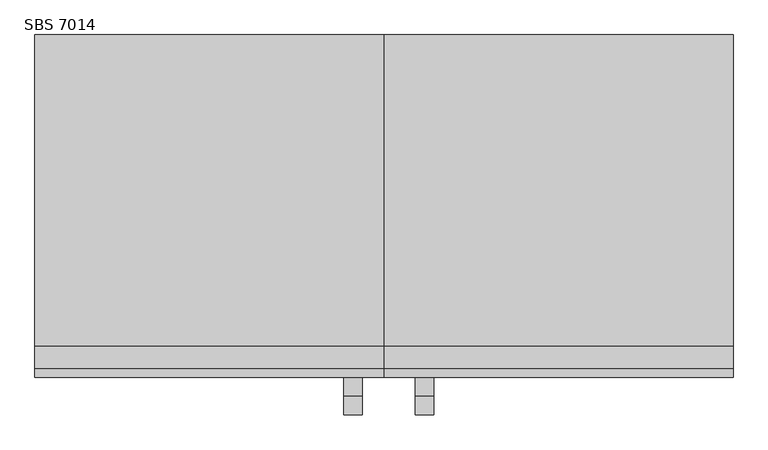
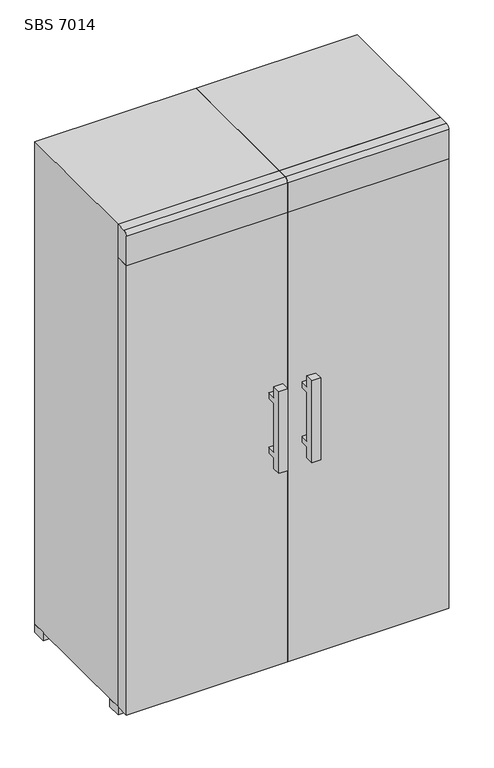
"""IFC4 building model written with IfcOpenShell, lengths in millimetres: proxy geometry, SBS 7014 : SICN 3314."""

from ifc_helpers import new_model, si_unit, point, frame, frame_2d, origin, place, context, project, spatial, polyline, circle_curve, trimmed, segment, composite_curve, outline, extrude, source, transform, mapped, element, save


def sbs_7014_2ff5a770(model_context):
    return source(origin(), model_context, "Body", "SweptSolid", [
        extrude(outline(composite_curve([segment(polyline([(2373.3651835, 1104.8132517), (2323.3651835, 1104.8132517), (2323.3651835, 1213.26203)]), True, "CONTINUOUS"), segment(trimmed(circle_curve(frame_2d((2337.6647672, 1212.4930039)), 14.3202478), [point((2323.3651835, 1213.26203))], [point((2337.6647672, 1226.8132517))], False, "CARTESIAN"), True, "CONTINUOUS"), segment(polyline([(2337.6647672, 1226.8132517), (2373.3651835, 1226.8132517), (2373.3651835, 1104.8132517)]), True, "CONTINUOUS")], self_intersect=False)), frame((2866.6618384, 0.0, 0.0), z_axis=(1.0, 0.0, 0.0), x_axis=(0.0, 1.0, 0.0)), (0.0, 0.0, 1.0), 560.0),
        extrude(outline(polyline([(3426.6618384, 2423.3651835), (3426.6618384, 2373.3651835), (3376.6618384, 2373.3651835), (3376.6618384, 2423.3651835), (3426.6618384, 2423.3651835)])), frame((0.0, 0.0, -575.1867483), z_axis=(0.0, 0.0, 1.0), x_axis=(1.0, 0.0, 0.0)), (0.0, 0.0, 1.0), 30.0),
        extrude(outline(polyline([(3426.6618384, 2873.3651835), (3426.6618384, 2823.3651835), (3376.6618384, 2823.3651835), (3376.6618384, 2873.3651835), (3426.6618384, 2873.3651835)])), frame((0.0, 0.0, -575.1867483), z_axis=(0.0, 0.0, 1.0), x_axis=(1.0, 0.0, 0.0)), (0.0, 0.0, 1.0), 30.0),
        extrude(outline(polyline([(2916.6618384, 2873.3651835), (2916.6618384, 2823.3651835), (2866.6618384, 2823.3651835), (2866.6618384, 2873.3651835), (2916.6618384, 2873.3651835)])), frame((0.0, 0.0, -575.1867483), z_axis=(0.0, 0.0, 1.0), x_axis=(1.0, 0.0, 0.0)), (0.0, 0.0, 1.0), 30.0),
        extrude(outline(polyline([(2916.6618384, 2423.3651835), (2916.6618384, 2373.3651835), (2866.6618384, 2373.3651835), (2866.6618384, 2423.3651835), (2916.6618384, 2423.3651835)])), frame((0.0, 0.0, -575.1867483), z_axis=(0.0, 0.0, 1.0), x_axis=(1.0, 0.0, 0.0)), (0.0, 0.0, 1.0), 30.0),
        extrude(outline(polyline([(2293.3651835, 464.8132517), (2323.3651835, 464.8132517), (2323.3651835, 444.8132517), (2293.3651835, 444.8132517), (2293.3651835, 264.8132517), (2323.3651835, 264.8132517), (2323.3651835, 244.8132517), (2293.3651835, 244.8132517), (2293.3651835, 204.8132517), (2263.3651835, 204.8132517), (2263.3651835, 504.8132517), (2293.3651835, 504.8132517), (2293.3651835, 464.8132517)])), frame((2916.6618384, 0.0, 0.0), z_axis=(1.0, 0.0, 0.0), x_axis=(0.0, 1.0, 0.0)), (0.0, 0.0, 1.0), 30.0),
        extrude(outline(polyline([(3426.6618384, 2323.3651835), (2866.6618384, 2323.3651835), (2866.6618384, 2373.3651835), (3426.6618384, 2373.3651835), (3426.6618384, 2323.3651835)])), frame((0.0, 0.0, -545.1867483), z_axis=(0.0, 0.0, 1.0), x_axis=(1.0, 0.0, 0.0)), (0.0, 0.0, 1.0), 1650.0),
        extrude(outline(polyline([(3426.6618384, 2373.3651835), (2866.6618384, 2373.3651835), (2866.6618384, 2873.3651835), (3426.6618384, 2873.3651835), (3426.6618384, 2373.3651835)])), frame((0.0, 0.0, -545.1867483), z_axis=(0.0, 0.0, 1.0), x_axis=(1.0, 0.0, 0.0)), (0.0, 0.0, 1.0), 1772.0),
        extrude(outline(composite_curve([segment(polyline([(2373.3651835, 1104.8132517), (2323.3651835, 1104.8132517), (2323.3651835, 1213.26203)]), True, "CONTINUOUS"), segment(trimmed(circle_curve(frame_2d((2337.6647672, 1212.4930039)), 14.3202478), [point((2323.3651835, 1213.26203))], [point((2337.6647672, 1226.8132517))], False, "CARTESIAN"), True, "CONTINUOUS"), segment(polyline([(2337.6647672, 1226.8132517), (2373.3651835, 1226.8132517), (2373.3651835, 1104.8132517)]), True, "CONTINUOUS")], self_intersect=False)), frame((2306.6618384, 0.0, 0.0), z_axis=(1.0, 0.0, 0.0), x_axis=(0.0, 1.0, 0.0)), (0.0, 0.0, 1.0), 560.0),
        extrude(outline(polyline([(2866.6618384, 2423.3651835), (2866.6618384, 2373.3651835), (2816.6618384, 2373.3651835), (2816.6618384, 2423.3651835), (2866.6618384, 2423.3651835)])), frame((0.0, 0.0, -575.1867483), z_axis=(0.0, 0.0, 1.0), x_axis=(1.0, 0.0, 0.0)), (0.0, 0.0, 1.0), 30.0),
        extrude(outline(polyline([(2866.6618384, 2873.3651835), (2866.6618384, 2823.3651835), (2816.6618384, 2823.3651835), (2816.6618384, 2873.3651835), (2866.6618384, 2873.3651835)])), frame((0.0, 0.0, -575.1867483), z_axis=(0.0, 0.0, 1.0), x_axis=(1.0, 0.0, 0.0)), (0.0, 0.0, 1.0), 30.0),
        extrude(outline(polyline([(2356.6618384, 2873.3651835), (2356.6618384, 2823.3651835), (2306.6618384, 2823.3651835), (2306.6618384, 2873.3651835), (2356.6618384, 2873.3651835)])), frame((0.0, 0.0, -575.1867483), z_axis=(0.0, 0.0, 1.0), x_axis=(1.0, 0.0, 0.0)), (0.0, 0.0, 1.0), 30.0),
        extrude(outline(polyline([(2356.6618384, 2423.3651835), (2356.6618384, 2373.3651835), (2306.6618384, 2373.3651835), (2306.6618384, 2423.3651835), (2356.6618384, 2423.3651835)])), frame((0.0, 0.0, -575.1867483), z_axis=(0.0, 0.0, 1.0), x_axis=(1.0, 0.0, 0.0)), (0.0, 0.0, 1.0), 30.0),
        extrude(outline(polyline([(2293.3651835, 464.8132517), (2323.3651835, 464.8132517), (2323.3651835, 444.8132517), (2293.3651835, 444.8132517), (2293.3651835, 264.8132517), (2323.3651835, 264.8132517), (2323.3651835, 244.8132517), (2293.3651835, 244.8132517), (2293.3651835, 204.8132517), (2263.3651835, 204.8132517), (2263.3651835, 504.8132517), (2293.3651835, 504.8132517), (2293.3651835, 464.8132517)])), frame((2802.0829998, 0.0, 0.0), z_axis=(1.0, 0.0, 0.0), x_axis=(0.0, 1.0, 0.0)), (0.0, 0.0, 1.0), 30.0),
        extrude(outline(polyline([(2866.6618384, 2323.3651835), (2306.6618384, 2323.3651835), (2306.6618384, 2373.3651835), (2866.6618384, 2373.3651835), (2866.6618384, 2323.3651835)])), frame((0.0, 0.0, -545.1867483), z_axis=(0.0, 0.0, 1.0), x_axis=(1.0, 0.0, 0.0)), (0.0, 0.0, 1.0), 1650.0),
        extrude(outline(polyline([(2866.6618384, 2373.3651835), (2306.6618384, 2373.3651835), (2306.6618384, 2873.3651835), (2866.6618384, 2873.3651835), (2866.6618384, 2373.3651835)])), frame((0.0, 0.0, -545.1867483), z_axis=(0.0, 0.0, 1.0), x_axis=(1.0, 0.0, 0.0)), (0.0, 0.0, 1.0), 1772.0),
    ])


if __name__ == "__main__":
    model = new_model("IFC4")
    model_context = context("Model", 3, world=origin())
    ifc_project = project(units=[si_unit("LENGTHUNIT", "METRE", prefix="MILLI")], contexts=[model_context])
    site = spatial("IfcSite", under=ifc_project)
    building = spatial("IfcBuilding", under=site)
    placement = place(None, origin())
    sbs_7014_shape = sbs_7014_2ff5a770(model_context)
    element("IfcBuildingElementProxy", 1, Name="SBS 7014 : SICN 3314", ObjectType="SBS 7014 : SICN 3314", at=placement, inside=building, context=model_context, shape_type="MappedRepresentation", body=[
        mapped(sbs_7014_shape, transform((0.0, 0.0, 0.0), x_axis=(1.0, 0.0, 0.0), y_axis=(0.0, 1.0, 0.0), z_axis=(0.0, 0.0, 1.0))),
    ])
    save(model, "model.ifc")
